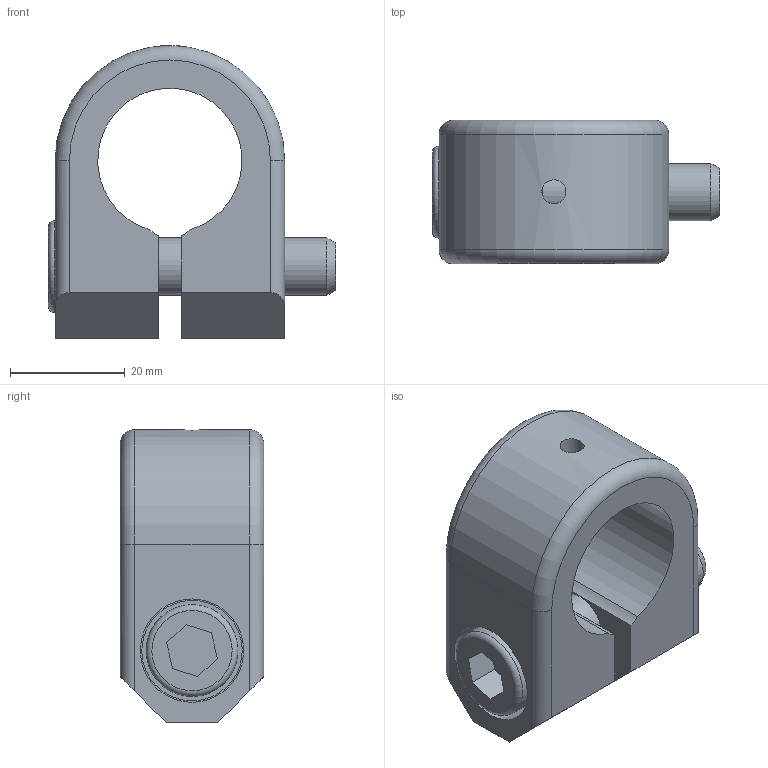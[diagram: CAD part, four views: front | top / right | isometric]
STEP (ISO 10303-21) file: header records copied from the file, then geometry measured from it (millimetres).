
FILE_DESCRIPTION(('STEP AP214'),'1');
FILE_NAME('CA.HAR.25.stp','2018-10-31T08:23:01',(' '),(' '),'Spatial InterOp 3D',' ',' ');
FILE_SCHEMA(('AUTOMOTIVE_DESIGN { 1 0 10303 214 1 1 1 1 }'));
Length unit declared in the file: millimetre
Products named in the file (4): CA.HAR.25; V.TCE10x40; R.10.SCH; HAR.25
Assembly tree (3 placements, depth 2):
  CA.HAR.25
    V.TCE10x40
    R.10.SCH
    HAR.25
Bounding box: 50 x 25 x 51 mm (x, y, z)
Volume: 29201.4 mm3; surface area: 12395.7 mm2
Topology: 3 solids, 3 shells, 48 faces, 109 edges, 71 vertices
Faces by surface type: plane 26, cylinder 16, torus 4, cone 2
Full cylindrical faces by diameter (mm): 4.2 x1, 10 x1, 10.5 x2, 11 x1, 16 x1, 17.5 x1, 18 x1
Entity records: 1865 total; most frequent: CARTESIAN_POINT 328, DIRECTION 234, ORIENTED_EDGE 190, EDGE_CURVE 95, AXIS2_PLACEMENT_3D 89, EDGE_LOOP 72, VERTEX_POINT 69, FACE_OUTER_BOUND 58
